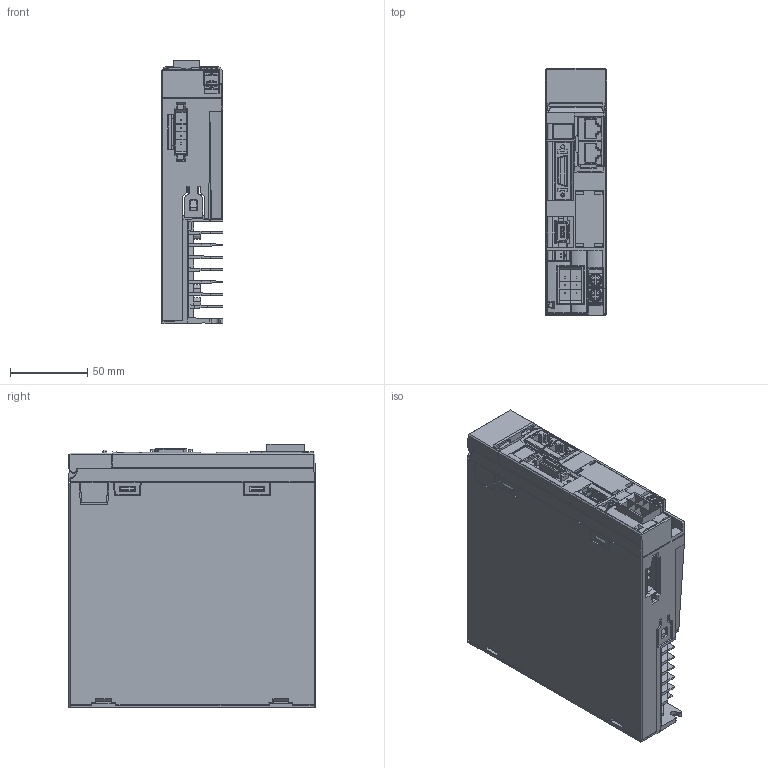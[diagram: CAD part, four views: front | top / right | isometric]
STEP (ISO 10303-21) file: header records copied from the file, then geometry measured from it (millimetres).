
FILE_DESCRIPTION((''),'2;1');
FILE_NAME('PRT0001','2010-09-29T',('sz00398'),(''),'PRO/ENGINEER BY PARAMETRIC TECHNOLOGY CORPORATION, 2006510','PRO/ENGINEER BY PARAMETRIC TECHNOLOGY CORPORATION, 2006510','');
FILE_SCHEMA(('CONFIG_CONTROL_DESIGN'));
Products named in the file (1): PRT0001
Bounding box: 40.1 x 160.17 x 170.68 mm (x, y, z)
Volume: 302498.1 mm3; surface area: 278657.7 mm2
Topology: 1 solids, 1 shells, 2278 faces, 6595 edges, 4275 vertices
Faces by surface type: plane 1875, cylinder 284, cone 53, torus 28, sphere 20, bspline 17, extrusion 1
Entity records: 75509 total; most frequent: CARTESIAN_POINT 15910, ORIENTED_EDGE 13156, DIRECTION 11263, EDGE_CURVE 6578, VECTOR 5501, LINE 5500, VERTEX_POINT 4275, AXIS2_PLACEMENT_3D 2881
